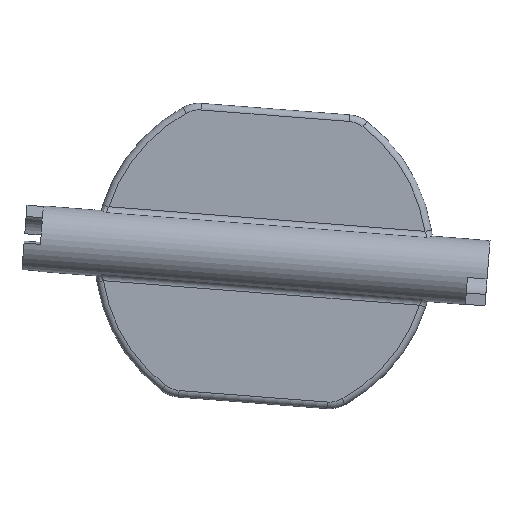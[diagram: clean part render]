
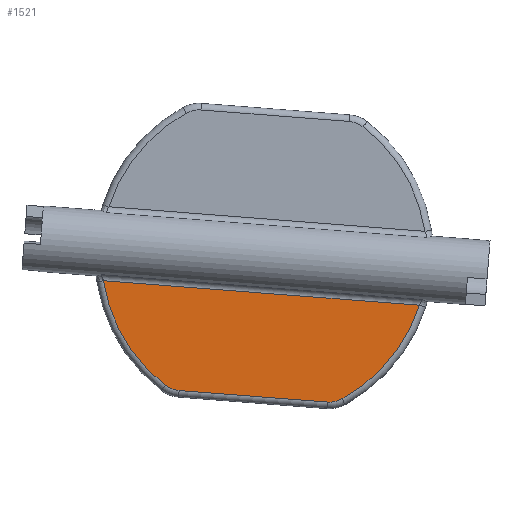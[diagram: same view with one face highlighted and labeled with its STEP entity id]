
A CAD part, front view. The second image highlights one B-rep face of the part: STEP entity #1521.
In plain terms, the highlighted planar face has unit normal (0, -1, 0).
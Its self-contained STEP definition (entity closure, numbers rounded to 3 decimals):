
#1=CARTESIAN_POINT('',(28.575,-1.,185.5));
#2=DIRECTION('',(0.,-1.,0.));
#3=DIRECTION('',(-0.988,0.,-0.152));
#4=AXIS2_PLACEMENT_3D('',#1,#2,#3);
#6=DIRECTION('',(0.997,0.,-0.077));
#7=VECTOR('',#6,48.354);
#8=CARTESIAN_POINT('',(4.033,-1.,181.729));
#9=LINE('',#8,#7);
#10=CARTESIAN_POINT('',(28.575,-1.,185.5));
#11=DIRECTION('',(0.,-1.,0.));
#12=DIRECTION('',(0.478,0.,-0.878));
#13=AXIS2_PLACEMENT_3D('',#10,#11,#12);
#15=CARTESIAN_POINT('',(38.531,-1.,167.203));
#16=DIRECTION('',(0.,-1.,0.));
#17=DIRECTION('',(-0.077,0.,-0.997));
#18=AXIS2_PLACEMENT_3D('',#15,#16,#17);
#20=DIRECTION('',(0.997,0.,-0.077));
#21=VECTOR('',#20,22.682);
#22=CARTESIAN_POINT('',(15.608,-1.,164.969));
#23=LINE('',#22,#21);
#24=CARTESIAN_POINT('',(15.917,-1.,168.957));
#25=DIRECTION('',(0.,-1.,0.));
#26=DIRECTION('',(-0.608,0.,-0.794));
#27=AXIS2_PLACEMENT_3D('',#24,#25,#26);
#836=CARTESIAN_POINT('',(52.242,-1.,177.991));
#1293=CARTESIAN_POINT('',(4.033,-1.,181.729));
#1294=CARTESIAN_POINT('',(13.487,-1.,165.78));
#1295=VERTEX_POINT('',#1293);
#1296=VERTEX_POINT('',#1294);
#1353=VERTEX_POINT('',#836);
#1488=CARTESIAN_POINT('',(15.608,-1.,164.969));
#1489=VERTEX_POINT('',#1488);
#1490=CARTESIAN_POINT('',(38.222,-1.,163.215));
#1491=VERTEX_POINT('',#1490);
#1492=CARTESIAN_POINT('',(40.443,-1.,163.69));
#1493=VERTEX_POINT('',#1492);
#1502=CARTESIAN_POINT('',(0.,-1.,0.));
#1503=DIRECTION('',(0.,1.,0.));
#1504=DIRECTION('',(1.,0.,0.));
#1505=AXIS2_PLACEMENT_3D('',#1502,#1503,#1504);
#1506=PLANE('',#1505);
#1508=ORIENTED_EDGE('',*,*,#1507,.F.);
#1510=ORIENTED_EDGE('',*,*,#1509,.T.);
#1512=ORIENTED_EDGE('',*,*,#1511,.F.);
#1514=ORIENTED_EDGE('',*,*,#1513,.F.);
#1516=ORIENTED_EDGE('',*,*,#1515,.F.);
#1518=ORIENTED_EDGE('',*,*,#1517,.F.);
#1519=EDGE_LOOP('',(#1508,#1510,#1512,#1514,#1516,#1518));
#1520=FACE_OUTER_BOUND('',#1519,.F.);
#1521=ADVANCED_FACE('',(#1520),#1506,.F.);
#5=CIRCLE('',#4,24.83);
#14=CIRCLE('',#13,24.83);
#19=CIRCLE('',#18,4.);
#28=CIRCLE('',#27,4.);
#1507=EDGE_CURVE('',#1295,#1296,#5,.T.);
#1509=EDGE_CURVE('',#1295,#1353,#9,.T.);
#1511=EDGE_CURVE('',#1493,#1353,#14,.T.);
#1513=EDGE_CURVE('',#1491,#1493,#19,.T.);
#1515=EDGE_CURVE('',#1489,#1491,#23,.T.);
#1517=EDGE_CURVE('',#1296,#1489,#28,.T.);
